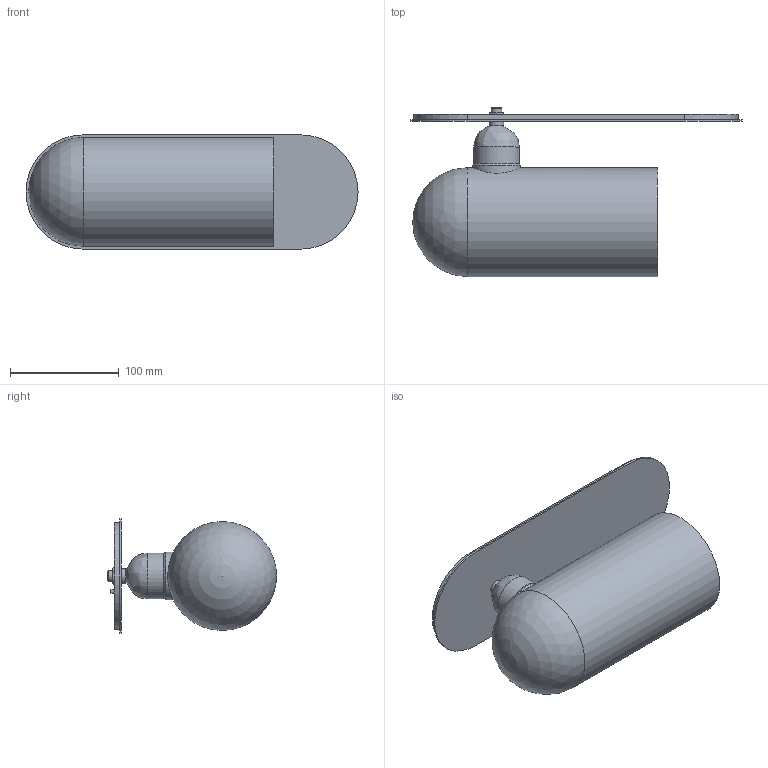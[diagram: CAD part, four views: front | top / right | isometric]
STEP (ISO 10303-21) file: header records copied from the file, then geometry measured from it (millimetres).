
FILE_DESCRIPTION(/* description */ (''),/* implementation_level */ '2;1');
FILE_NAME(/* name */ '240717_B_B146 Paris.stp',/* time_stamp */ '2024-07-17T15:02:35+02:00',/* author */ ('Lukasz'),/* organization */ (''),/* preprocessor_version */ 'ST-DEVELOPER v20',/* originating_system */ 'Autodesk Inventor 2024',/* authorisation */ '');
FILE_SCHEMA (('AUTOMOTIVE_DESIGN { 1 0 10303 214 3 1 1 }'));
Length unit declared in the file: millimetre
Products named in the file (1): Część6
Bounding box: 305 x 155.45 x 105 mm (x, y, z)
Volume: 1895413.9 mm3; surface area: 215663.1 mm2
Topology: 12 solids, 12 shells, 77 faces, 143 edges, 90 vertices
Faces by surface type: plane 39, cylinder 20, cone 13, bspline 4, sphere 1
Full cylindrical faces by diameter (mm): 7 x1, 9 x1, 10 x1, 13 x1, 28 x1, 29 x1, 36 x1, 38 x1, 42 x1, 44 x1, 100 x1
Entity records: 2380 total; most frequent: CARTESIAN_POINT 696, DIRECTION 316, ORIENTED_EDGE 284, EDGE_CURVE 142, AXIS2_PLACEMENT_3D 131, VERTEX_POINT 90, STYLED_ITEM 89, EDGE_LOOP 80
